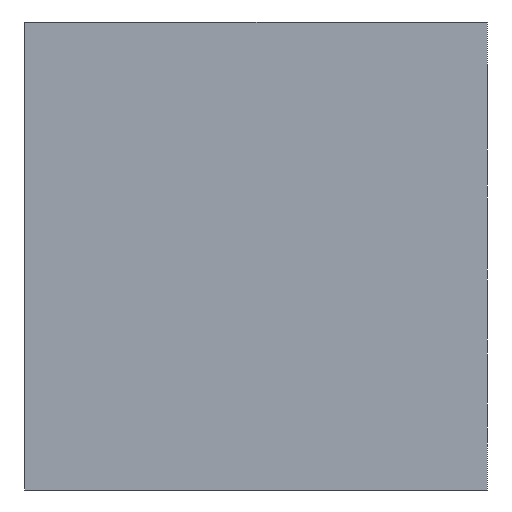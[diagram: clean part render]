
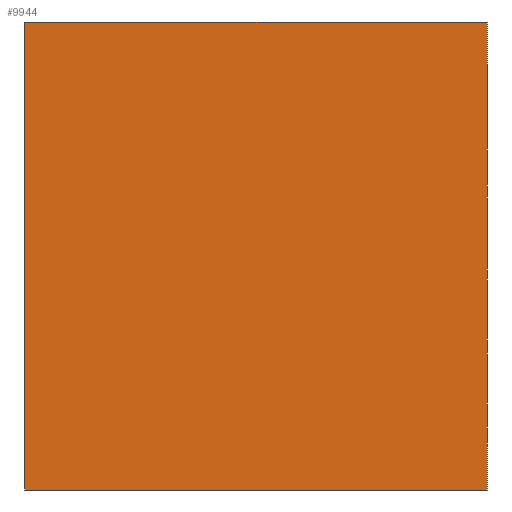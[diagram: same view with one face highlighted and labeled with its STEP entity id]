
A CAD part, left-side view. The second image highlights one B-rep face of the part: STEP entity #9944.
In plain terms, the highlighted planar face has unit normal (-1, 0, 0).
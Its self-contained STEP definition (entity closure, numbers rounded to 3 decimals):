
#625 = VERTEX_POINT ( 'NONE', #3521 ) ;
#875 = CARTESIAN_POINT ( 'NONE',  ( 0., -20.457, 20. ) ) ;
#911 = EDGE_CURVE ( 'NONE', #8042, #10706, #1127, .T. ) ;
#1060 = VECTOR ( 'NONE', #2377, 1000. ) ;
#1068 = DIRECTION ( 'NONE',  ( 0., 1., 0. ) ) ;
#1127 = LINE ( 'NONE', #6171, #1060 ) ;
#1767 = CARTESIAN_POINT ( 'NONE',  ( 0., -20.457, -20. ) ) ;
#2044 = DIRECTION ( 'NONE',  ( 0., 1., 0. ) ) ;
#2377 = DIRECTION ( 'NONE',  ( 0., 0., 1. ) ) ;
#2564 = EDGE_CURVE ( 'NONE', #9028, #10706, #7675, .T. ) ;
#2578 = EDGE_CURVE ( 'NONE', #625, #8042, #8069, .T. ) ;
#2621 = EDGE_CURVE ( 'NONE', #625, #9028, #12184, .T. ) ;
#3397 = CARTESIAN_POINT ( 'NONE',  ( 0., 19.75, -20. ) ) ;
#3471 = CARTESIAN_POINT ( 'NONE',  ( 0., -19.75, -20.707 ) ) ;
#3521 = CARTESIAN_POINT ( 'NONE',  ( 0., -19.75, -20. ) ) ;
#4349 = DIRECTION ( 'NONE',  ( 0., 0., 1. ) ) ;
#4684 = CARTESIAN_POINT ( 'NONE',  ( 0., 19.75, -20. ) ) ;
#5230 = PLANE ( 'NONE',  #6367 ) ;
#5262 = ORIENTED_EDGE ( 'NONE', *, *, #2578, .F. ) ;
#5996 = FACE_OUTER_BOUND ( 'NONE', #8096, .T. ) ;
#6171 = CARTESIAN_POINT ( 'NONE',  ( 0., 19.75, -20.707 ) ) ;
#6360 = CARTESIAN_POINT ( 'NONE',  ( 0., -19.75, 20. ) ) ;
#6367 = AXIS2_PLACEMENT_3D ( 'NONE', #3397, #9961, #4349 ) ;
#6889 = VECTOR ( 'NONE', #2044, 1000. ) ;
#6946 = VECTOR ( 'NONE', #1068, 1000. ) ;
#7095 = DIRECTION ( 'NONE',  ( 0., 0., 1. ) ) ;
#7675 = LINE ( 'NONE', #875, #6889 ) ;
#7802 = ORIENTED_EDGE ( 'NONE', *, *, #2621, .T. ) ;
#8042 = VERTEX_POINT ( 'NONE', #4684 ) ;
#8054 = VECTOR ( 'NONE', #7095, 1000. ) ;
#8069 = LINE ( 'NONE', #1767, #6946 ) ;
#8096 = EDGE_LOOP ( 'NONE', ( #8662, #5262, #7802, #11800 ) ) ;
#8662 = ORIENTED_EDGE ( 'NONE', *, *, #911, .F. ) ;
#9028 = VERTEX_POINT ( 'NONE', #6360 ) ;
#9944 = ADVANCED_FACE ( 'NONE', ( #5996 ), #5230, .T. ) ;
#9961 = DIRECTION ( 'NONE',  ( -1., 0., 0. ) ) ;
#10706 = VERTEX_POINT ( 'NONE', #12057 ) ;
#11800 = ORIENTED_EDGE ( 'NONE', *, *, #2564, .T. ) ;
#12057 = CARTESIAN_POINT ( 'NONE',  ( 0., 19.75, 20. ) ) ;
#12184 = LINE ( 'NONE', #3471, #8054 ) ;
